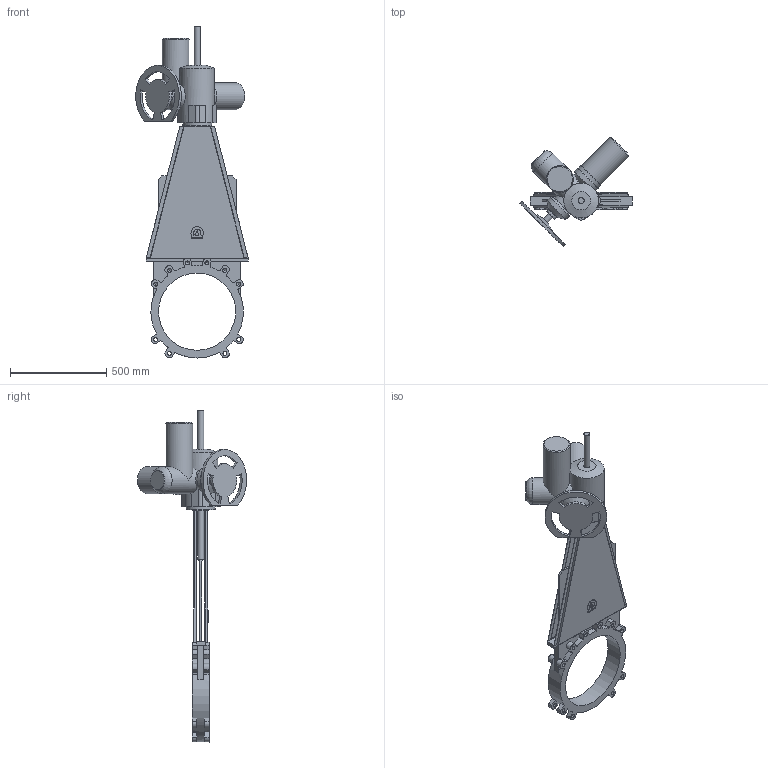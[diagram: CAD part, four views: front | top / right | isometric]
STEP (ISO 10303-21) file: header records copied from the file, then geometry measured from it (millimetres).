
FILE_DESCRIPTION(('STEP AP203'), '1');
FILE_NAME('K21GVA_DN400+MT903.A 30', '', ('UNSPECIFIED'), ('UNSPECIFIED'), 'ASCON STEP Converter 1.6', 'ASCON Math Kernel', '');
FILE_SCHEMA(('CONFIG_CONTROL_DESIGN'));
Length unit declared in the file: millimetre
Bounding box: 583.55 x 565.84 x 1721 mm (x, y, z)
Volume: 31153140.4 mm3; surface area: 2737908.9 mm2
Topology: 1 solids, 1 shells, 350 faces, 974 edges, 628 vertices
Faces by surface type: plane 196, cylinder 127, cone 26, torus 1
Full cylindrical faces by diameter (mm): 10.106 x4, 14 x8, 20.752 x20, 32 x3, 60 x1, 80 x1, 100 x1, 140 x4, 147 x1, 150 x1, 151 x1, 400 x1
Entity records: 14606 total; most frequent: CARTESIAN_POINT 2898, DIRECTION 1889, ORIENTED_EDGE 1772, EDGE_CURVE 886, AXIS2_PLACEMENT_3D 685, VERTEX_POINT 612, LINE 519, VECTOR 519
